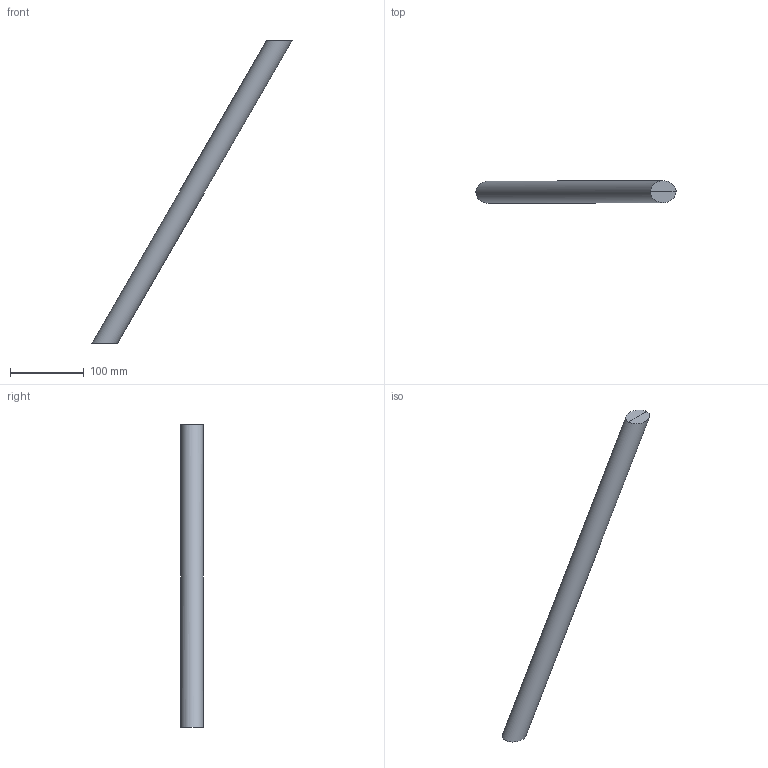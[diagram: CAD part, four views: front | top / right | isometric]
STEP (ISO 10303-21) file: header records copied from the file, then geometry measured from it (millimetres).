
FILE_DESCRIPTION(/* description */ (''),/* implementation_level */ '2;1');
FILE_NAME(/* name */ 'M:\Symbolen_NIEUW\STP\52-er truss\C52T\C52T-L300_111810007.stp',/* time_stamp */ '2017-12-15T15:46:27+01:00',/* author */ ('Kees'),/* organization */ (''),/* preprocessor_version */ 'ST-DEVELOPER v16.13',/* originating_system */ 'Autodesk Inventor 2018',/* authorisation */ '');
FILE_SCHEMA (('AUTOMOTIVE_DESIGN { 1 0 10303 214 3 1 1 }'));
Length unit declared in the file: millimetre
Products named in the file (1): 260001242
Bounding box: 271.35 x 29.99 x 410 mm (x, y, z)
Volume: 334646 mm3; surface area: 46251.9 mm2
Topology: 1 solids, 1 shells, 5 faces, 7 edges, 4 vertices
Faces by surface type: plane 4, cylinder 1
Full cylindrical faces by diameter (mm): 30 x1
Entity records: 170 total; most frequent: DIRECTION 22, CARTESIAN_POINT 16, ORIENTED_EDGE 12, AXIS2_PLACEMENT_3D 10, EDGE_LOOP 6, EDGE_CURVE 6, STYLED_ITEM 6, FACE_OUTER_BOUND 5
